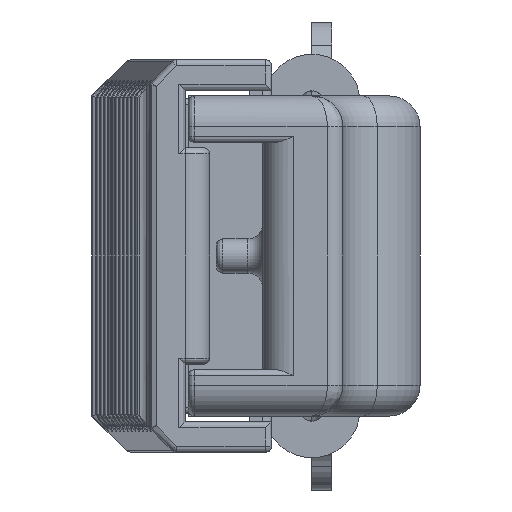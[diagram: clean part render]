
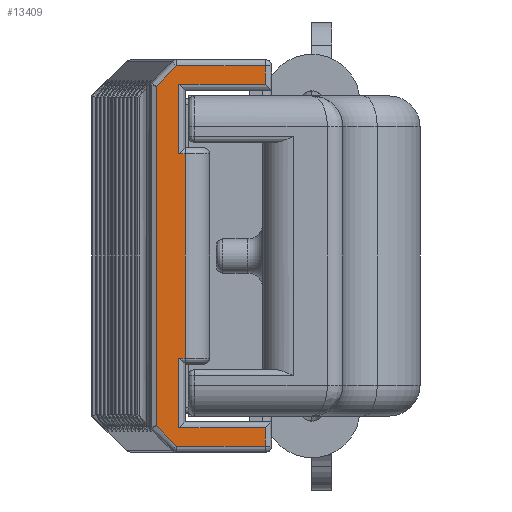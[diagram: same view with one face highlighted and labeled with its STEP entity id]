
A CAD part, left-side view. The second image highlights one B-rep face of the part: STEP entity #13409.
In plain terms, the highlighted planar face has unit normal (-1, 0, 0).
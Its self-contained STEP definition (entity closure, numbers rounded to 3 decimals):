
#119 = CARTESIAN_POINT ( 'NONE',  ( -2.4, 7.6, -6.35 ) ) ;
#143 = VECTOR ( 'NONE', #2239, 1000. ) ;
#211 = CARTESIAN_POINT ( 'NONE',  ( -2.4, 5., 6.15 ) ) ;
#319 = PLANE ( 'NONE',  #16680 ) ;
#527 = VECTOR ( 'NONE', #12275, 1000. ) ;
#617 = ORIENTED_EDGE ( 'NONE', *, *, #19139, .T. ) ;
#970 = VERTEX_POINT ( 'NONE', #17652 ) ;
#1105 = ORIENTED_EDGE ( 'NONE', *, *, #5482, .T. ) ;
#1428 = CARTESIAN_POINT ( 'NONE',  ( -2.4, 8.534, 5.493 ) ) ;
#1872 = CARTESIAN_POINT ( 'NONE',  ( -2.4, 7.877, -6.15 ) ) ;
#1916 = CARTESIAN_POINT ( 'NONE',  ( -2.4, 7.6, -5.55 ) ) ;
#2142 = CARTESIAN_POINT ( 'NONE',  ( -2.4, 7.877, 6.15 ) ) ;
#2239 = DIRECTION ( 'NONE',  ( 0., 0., 1. ) ) ;
#2375 = ORIENTED_EDGE ( 'NONE', *, *, #12029, .T. ) ;
#2471 = VERTEX_POINT ( 'NONE', #15280 ) ;
#2514 = LINE ( 'NONE', #8859, #20453 ) ;
#2531 = EDGE_CURVE ( 'NONE', #3673, #970, #2514, .T. ) ;
#2612 = EDGE_CURVE ( 'NONE', #8726, #18485, #5947, .T. ) ;
#3371 = ORIENTED_EDGE ( 'NONE', *, *, #4695, .T. ) ;
#3436 = CARTESIAN_POINT ( 'NONE',  ( -2.4, 7.6, 3.3 ) ) ;
#3664 = DIRECTION ( 'NONE',  ( -1., 0., 0. ) ) ;
#3673 = VERTEX_POINT ( 'NONE', #19271 ) ;
#3975 = EDGE_CURVE ( 'NONE', #6960, #2471, #19143, .T. ) ;
#4042 = VERTEX_POINT ( 'NONE', #11381 ) ;
#4230 = VERTEX_POINT ( 'NONE', #2142 ) ;
#4244 = LINE ( 'NONE', #13575, #5161 ) ;
#4454 = ORIENTED_EDGE ( 'NONE', *, *, #3975, .T. ) ;
#4561 = VERTEX_POINT ( 'NONE', #211 ) ;
#4695 = EDGE_CURVE ( 'NONE', #4561, #4230, #19839, .T. ) ;
#4804 = LINE ( 'NONE', #13099, #11651 ) ;
#4829 = EDGE_CURVE ( 'NONE', #17168, #17274, #11123, .T. ) ;
#5082 = CARTESIAN_POINT ( 'NONE',  ( -2.4, 7.6, -6.15 ) ) ;
#5161 = VECTOR ( 'NONE', #13782, 1000. ) ;
#5349 = DIRECTION ( 'NONE',  ( 0., -1., 0. ) ) ;
#5482 = EDGE_CURVE ( 'NONE', #9633, #10985, #8360, .T. ) ;
#5831 = CARTESIAN_POINT ( 'NONE',  ( -2.4, 7.6, 6.15 ) ) ;
#5947 = LINE ( 'NONE', #9164, #527 ) ;
#6495 = EDGE_CURVE ( 'NONE', #18485, #6960, #11622, .T. ) ;
#6507 = CARTESIAN_POINT ( 'NONE',  ( -2.4, 5., -5.35 ) ) ;
#6636 = EDGE_CURVE ( 'NONE', #4042, #9633, #4244, .T. ) ;
#6714 = VECTOR ( 'NONE', #17142, 1000. ) ;
#6923 = CARTESIAN_POINT ( 'NONE',  ( -2.4, 7.6, 3.5 ) ) ;
#6958 = CARTESIAN_POINT ( 'NONE',  ( -2.4, 7.8, 5.35 ) ) ;
#6960 = VERTEX_POINT ( 'NONE', #18223 ) ;
#7177 = EDGE_CURVE ( 'NONE', #18714, #8726, #12827, .T. ) ;
#7350 = VECTOR ( 'NONE', #5349, 1000. ) ;
#7631 = CARTESIAN_POINT ( 'NONE',  ( -2.4, 7.8, -3.3 ) ) ;
#7665 = VECTOR ( 'NONE', #8707, 1000. ) ;
#7691 = VECTOR ( 'NONE', #8245, 1000. ) ;
#7990 = VECTOR ( 'NONE', #17441, 1000. ) ;
#8245 = DIRECTION ( 'NONE',  ( 0., 1., 0. ) ) ;
#8360 = LINE ( 'NONE', #16159, #7350 ) ;
#8555 = ORIENTED_EDGE ( 'NONE', *, *, #6495, .T. ) ;
#8707 = DIRECTION ( 'NONE',  ( 0., 0., 1. ) ) ;
#8726 = VERTEX_POINT ( 'NONE', #14176 ) ;
#8791 = ORIENTED_EDGE ( 'NONE', *, *, #7177, .T. ) ;
#8859 = CARTESIAN_POINT ( 'NONE',  ( -2.4, 7.6, 5.55 ) ) ;
#8901 = EDGE_CURVE ( 'NONE', #4230, #18714, #16813, .T. ) ;
#9113 = VECTOR ( 'NONE', #11674, 1000. ) ;
#9164 = CARTESIAN_POINT ( 'NONE',  ( -2.4, 7.639, -6.389 ) ) ;
#9361 = DIRECTION ( 'NONE',  ( 0., -1., 0. ) ) ;
#9410 = VECTOR ( 'NONE', #17012, 1000. ) ;
#9454 = EDGE_LOOP ( 'NONE', ( #10631, #11502, #2375, #13576, #617, #3371, #14309, #8791, #16862, #8555, #4454, #20289, #16550, #1105 ) ) ;
#9633 = VERTEX_POINT ( 'NONE', #7631 ) ;
#9803 = LINE ( 'NONE', #1916, #7691 ) ;
#10369 = LINE ( 'NONE', #6958, #7665 ) ;
#10631 = ORIENTED_EDGE ( 'NONE', *, *, #15071, .T. ) ;
#10985 = VERTEX_POINT ( 'NONE', #14580 ) ;
#11123 = LINE ( 'NONE', #11225, #7990 ) ;
#11124 = VECTOR ( 'NONE', #11829, 1000. ) ;
#11225 = CARTESIAN_POINT ( 'NONE',  ( -2.4, 7.6, 3.3 ) ) ;
#11381 = CARTESIAN_POINT ( 'NONE',  ( -2.4, 7.8, -5.55 ) ) ;
#11502 = ORIENTED_EDGE ( 'NONE', *, *, #4829, .T. ) ;
#11622 = LINE ( 'NONE', #5082, #11124 ) ;
#11651 = VECTOR ( 'NONE', #17658, 1000. ) ;
#11674 = DIRECTION ( 'NONE',  ( 0., 0., -1. ) ) ;
#11829 = DIRECTION ( 'NONE',  ( 0., -1., 0. ) ) ;
#11858 = CARTESIAN_POINT ( 'NONE',  ( -2.4, 7.8, 3.3 ) ) ;
#12029 = EDGE_CURVE ( 'NONE', #17274, #3673, #10369, .T. ) ;
#12275 = DIRECTION ( 'NONE',  ( 0., -0.707, -0.707 ) ) ;
#12827 = LINE ( 'NONE', #14472, #9113 ) ;
#12834 = DIRECTION ( 'NONE',  ( 0., 0., 1. ) ) ;
#13099 = CARTESIAN_POINT ( 'NONE',  ( -2.4, 5., 6.35 ) ) ;
#13409 = ADVANCED_FACE ( 'NONE', ( #17888 ), #319, .T. ) ;
#13575 = CARTESIAN_POINT ( 'NONE',  ( -2.4, 7.8, -3.5 ) ) ;
#13576 = ORIENTED_EDGE ( 'NONE', *, *, #2531, .T. ) ;
#13782 = DIRECTION ( 'NONE',  ( 0., 0., 1. ) ) ;
#14176 = CARTESIAN_POINT ( 'NONE',  ( -2.4, 8.534, -5.493 ) ) ;
#14309 = ORIENTED_EDGE ( 'NONE', *, *, #8901, .T. ) ;
#14472 = CARTESIAN_POINT ( 'NONE',  ( -2.4, 8.534, -5.551 ) ) ;
#14580 = CARTESIAN_POINT ( 'NONE',  ( -2.4, 7.6, -3.3 ) ) ;
#14794 = LINE ( 'NONE', #6923, #143 ) ;
#15042 = CARTESIAN_POINT ( 'NONE',  ( -2.4, 8.605, 5.422 ) ) ;
#15071 = EDGE_CURVE ( 'NONE', #10985, #17168, #14794, .T. ) ;
#15280 = CARTESIAN_POINT ( 'NONE',  ( -2.4, 5., -5.55 ) ) ;
#16159 = CARTESIAN_POINT ( 'NONE',  ( -2.4, 6.8, -3.3 ) ) ;
#16550 = ORIENTED_EDGE ( 'NONE', *, *, #6636, .T. ) ;
#16680 = AXIS2_PLACEMENT_3D ( 'NONE', #119, #3664, #19129 ) ;
#16813 = LINE ( 'NONE', #15042, #9410 ) ;
#16862 = ORIENTED_EDGE ( 'NONE', *, *, #2612, .T. ) ;
#17012 = DIRECTION ( 'NONE',  ( 0., 0.707, -0.707 ) ) ;
#17142 = DIRECTION ( 'NONE',  ( 0., 1., 0. ) ) ;
#17168 = VERTEX_POINT ( 'NONE', #3436 ) ;
#17274 = VERTEX_POINT ( 'NONE', #11858 ) ;
#17441 = DIRECTION ( 'NONE',  ( 0., 1., 0. ) ) ;
#17652 = CARTESIAN_POINT ( 'NONE',  ( -2.4, 5., 5.55 ) ) ;
#17658 = DIRECTION ( 'NONE',  ( 0., 0., 1. ) ) ;
#17888 = FACE_OUTER_BOUND ( 'NONE', #9454, .T. ) ;
#18223 = CARTESIAN_POINT ( 'NONE',  ( -2.4, 5., -6.15 ) ) ;
#18485 = VERTEX_POINT ( 'NONE', #1872 ) ;
#18714 = VERTEX_POINT ( 'NONE', #1428 ) ;
#18776 = VECTOR ( 'NONE', #12834, 1000. ) ;
#19129 = DIRECTION ( 'NONE',  ( 0., 0., 1. ) ) ;
#19139 = EDGE_CURVE ( 'NONE', #970, #4561, #4804, .T. ) ;
#19143 = LINE ( 'NONE', #6507, #18776 ) ;
#19271 = CARTESIAN_POINT ( 'NONE',  ( -2.4, 7.8, 5.55 ) ) ;
#19794 = EDGE_CURVE ( 'NONE', #2471, #4042, #9803, .T. ) ;
#19839 = LINE ( 'NONE', #5831, #6714 ) ;
#20289 = ORIENTED_EDGE ( 'NONE', *, *, #19794, .T. ) ;
#20453 = VECTOR ( 'NONE', #9361, 1000. ) ;
